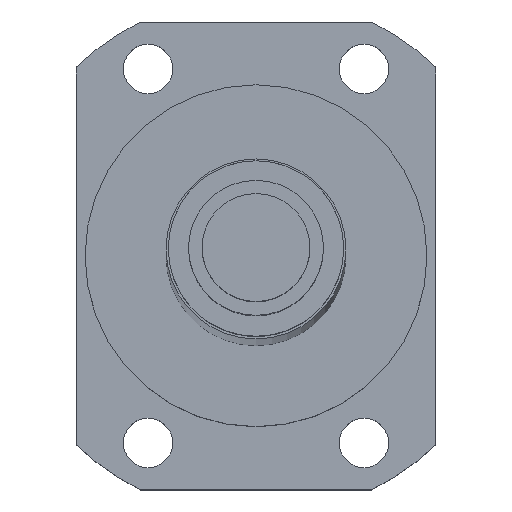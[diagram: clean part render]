
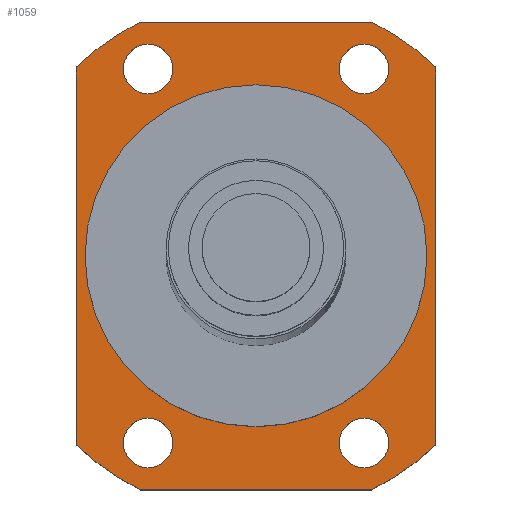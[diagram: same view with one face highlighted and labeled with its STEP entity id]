
A CAD part, top view. The second image highlights one B-rep face of the part: STEP entity #1059.
In plain terms, the highlighted planar face has unit normal (0, 0, 1).
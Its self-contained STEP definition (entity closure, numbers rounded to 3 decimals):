
#58=CARTESIAN_POINT('',(0.,0.,9.5));
#59=DIRECTION('',(0.,0.,-1.));
#60=DIRECTION('',(-1.,0.,0.));
#61=AXIS2_PLACEMENT_3D('',#58,#59,#60);
#175=CARTESIAN_POINT('',(0.,0.,9.5));
#176=DIRECTION('',(0.,0.,1.));
#177=DIRECTION('',(-0.443,0.897,0.));
#178=AXIS2_PLACEMENT_3D('',#175,#176,#177);
#180=DIRECTION('',(-1.,0.,0.));
#181=VECTOR('',#180,25.69);
#182=CARTESIAN_POINT('',(12.845,26.,9.5));
#183=LINE('',#182,#181);
#184=CARTESIAN_POINT('',(0.,0.,9.5));
#185=DIRECTION('',(0.,0.,1.));
#186=DIRECTION('',(0.69,0.724,0.));
#187=AXIS2_PLACEMENT_3D('',#184,#185,#186);
#189=DIRECTION('',(0.,1.,0.));
#190=VECTOR('',#189,42.);
#191=CARTESIAN_POINT('',(20.,-21.,9.5));
#192=LINE('',#191,#190);
#193=CARTESIAN_POINT('',(0.,0.,9.5));
#194=DIRECTION('',(0.,0.,1.));
#195=DIRECTION('',(0.443,-0.897,0.));
#196=AXIS2_PLACEMENT_3D('',#193,#194,#195);
#198=DIRECTION('',(1.,0.,0.));
#199=VECTOR('',#198,25.69);
#200=CARTESIAN_POINT('',(-12.845,-26.,9.5));
#201=LINE('',#200,#199);
#202=CARTESIAN_POINT('',(0.,0.,9.5));
#203=DIRECTION('',(0.,0.,1.));
#204=DIRECTION('',(-0.69,-0.724,0.));
#205=AXIS2_PLACEMENT_3D('',#202,#203,#204);
#207=DIRECTION('',(0.,-1.,0.));
#208=VECTOR('',#207,42.);
#209=CARTESIAN_POINT('',(-20.,21.,9.5));
#210=LINE('',#209,#208);
#211=CARTESIAN_POINT('',(-12.,-20.785,9.5));
#212=DIRECTION('',(0.,0.,1.));
#213=DIRECTION('',(-1.,0.,0.));
#214=AXIS2_PLACEMENT_3D('',#211,#212,#213);
#216=CARTESIAN_POINT('',(-12.,-20.785,9.5));
#217=DIRECTION('',(0.,0.,1.));
#218=DIRECTION('',(1.,0.,0.));
#219=AXIS2_PLACEMENT_3D('',#216,#217,#218);
#221=CARTESIAN_POINT('',(12.,-20.785,9.5));
#222=DIRECTION('',(0.,0.,1.));
#223=DIRECTION('',(-1.,0.,0.));
#224=AXIS2_PLACEMENT_3D('',#221,#222,#223);
#226=CARTESIAN_POINT('',(12.,-20.785,9.5));
#227=DIRECTION('',(0.,0.,1.));
#228=DIRECTION('',(1.,0.,0.));
#229=AXIS2_PLACEMENT_3D('',#226,#227,#228);
#231=CARTESIAN_POINT('',(-12.,20.785,9.5));
#232=DIRECTION('',(0.,0.,1.));
#233=DIRECTION('',(-1.,0.,0.));
#234=AXIS2_PLACEMENT_3D('',#231,#232,#233);
#236=CARTESIAN_POINT('',(-12.,20.785,9.5));
#237=DIRECTION('',(0.,0.,1.));
#238=DIRECTION('',(1.,0.,0.));
#239=AXIS2_PLACEMENT_3D('',#236,#237,#238);
#241=CARTESIAN_POINT('',(12.,20.785,9.5));
#242=DIRECTION('',(0.,0.,1.));
#243=DIRECTION('',(-1.,0.,0.));
#244=AXIS2_PLACEMENT_3D('',#241,#242,#243);
#246=CARTESIAN_POINT('',(12.,20.785,9.5));
#247=DIRECTION('',(0.,0.,1.));
#248=DIRECTION('',(1.,0.,0.));
#249=AXIS2_PLACEMENT_3D('',#246,#247,#248);
#260=CARTESIAN_POINT('',(0.,0.,9.5));
#261=DIRECTION('',(0.,0.,-1.));
#262=DIRECTION('',(1.,0.,0.));
#263=AXIS2_PLACEMENT_3D('',#260,#261,#262);
#697=CARTESIAN_POINT('',(-12.845,26.,9.5));
#698=CARTESIAN_POINT('',(-20.,21.,9.5));
#699=VERTEX_POINT('',#697);
#700=VERTEX_POINT('',#698);
#701=CARTESIAN_POINT('',(12.845,26.,9.5));
#702=VERTEX_POINT('',#701);
#703=CARTESIAN_POINT('',(20.,21.,9.5));
#704=VERTEX_POINT('',#703);
#705=CARTESIAN_POINT('',(20.,-21.,9.5));
#706=VERTEX_POINT('',#705);
#707=CARTESIAN_POINT('',(12.845,-26.,9.5));
#708=VERTEX_POINT('',#707);
#709=CARTESIAN_POINT('',(-12.845,-26.,9.5));
#710=VERTEX_POINT('',#709);
#711=CARTESIAN_POINT('',(-20.,-21.,9.5));
#712=VERTEX_POINT('',#711);
#717=CARTESIAN_POINT('',(-19.,0.,9.5));
#718=CARTESIAN_POINT('',(19.,0.,9.5));
#719=VERTEX_POINT('',#717);
#720=VERTEX_POINT('',#718);
#737=CARTESIAN_POINT('',(-14.75,-20.785,9.5));
#738=CARTESIAN_POINT('',(-9.25,-20.785,9.5));
#739=VERTEX_POINT('',#737);
#740=VERTEX_POINT('',#738);
#741=CARTESIAN_POINT('',(9.25,-20.785,9.5));
#742=CARTESIAN_POINT('',(14.75,-20.785,9.5));
#743=VERTEX_POINT('',#741);
#744=VERTEX_POINT('',#742);
#745=CARTESIAN_POINT('',(-14.75,20.785,9.5));
#746=CARTESIAN_POINT('',(-9.25,20.785,9.5));
#747=VERTEX_POINT('',#745);
#748=VERTEX_POINT('',#746);
#749=CARTESIAN_POINT('',(9.25,20.785,9.5));
#750=CARTESIAN_POINT('',(14.75,20.785,9.5));
#751=VERTEX_POINT('',#749);
#752=VERTEX_POINT('',#750);
#1015=CARTESIAN_POINT('',(0.,0.,9.5));
#1016=DIRECTION('',(0.,0.,-1.));
#1017=DIRECTION('',(-1.,0.,0.));
#1018=AXIS2_PLACEMENT_3D('',#1015,#1016,#1017);
#1019=PLANE('',#1018);
#1020=ORIENTED_EDGE('',*,*,#911,.F.);
#1021=ORIENTED_EDGE('',*,*,#926,.F.);
#1022=ORIENTED_EDGE('',*,*,#940,.F.);
#1023=ORIENTED_EDGE('',*,*,#954,.F.);
#1024=ORIENTED_EDGE('',*,*,#968,.F.);
#1025=ORIENTED_EDGE('',*,*,#982,.F.);
#1026=ORIENTED_EDGE('',*,*,#996,.F.);
#1027=ORIENTED_EDGE('',*,*,#1009,.F.);
#1028=EDGE_LOOP('',(#1020,#1021,#1022,#1023,#1024,#1025,#1026,#1027));
#1029=FACE_OUTER_BOUND('',#1028,.F.);
#1030=ORIENTED_EDGE('',*,*,#839,.F.);
#1032=ORIENTED_EDGE('',*,*,#1031,.F.);
#1033=EDGE_LOOP('',(#1030,#1032));
#1034=FACE_BOUND('',#1033,.F.);
#1036=ORIENTED_EDGE('',*,*,#1035,.T.);
#1038=ORIENTED_EDGE('',*,*,#1037,.T.);
#1039=EDGE_LOOP('',(#1036,#1038));
#1040=FACE_BOUND('',#1039,.F.);
#1042=ORIENTED_EDGE('',*,*,#1041,.T.);
#1044=ORIENTED_EDGE('',*,*,#1043,.T.);
#1045=EDGE_LOOP('',(#1042,#1044));
#1046=FACE_BOUND('',#1045,.F.);
#1048=ORIENTED_EDGE('',*,*,#1047,.T.);
#1050=ORIENTED_EDGE('',*,*,#1049,.T.);
#1051=EDGE_LOOP('',(#1048,#1050));
#1052=FACE_BOUND('',#1051,.F.);
#1054=ORIENTED_EDGE('',*,*,#1053,.T.);
#1056=ORIENTED_EDGE('',*,*,#1055,.T.);
#1057=EDGE_LOOP('',(#1054,#1056));
#1058=FACE_BOUND('',#1057,.F.);
#1059=ADVANCED_FACE('',(#1029,#1034,#1040,#1046,#1052,#1058),#1019,.F.);
#62=CIRCLE('',#61,19.);
#179=CIRCLE('',#178,29.);
#188=CIRCLE('',#187,29.);
#197=CIRCLE('',#196,29.);
#206=CIRCLE('',#205,29.);
#215=CIRCLE('',#214,2.75);
#220=CIRCLE('',#219,2.75);
#225=CIRCLE('',#224,2.75);
#230=CIRCLE('',#229,2.75);
#235=CIRCLE('',#234,2.75);
#240=CIRCLE('',#239,2.75);
#245=CIRCLE('',#244,2.75);
#250=CIRCLE('',#249,2.75);
#264=CIRCLE('',#263,19.);
#839=EDGE_CURVE('',#719,#720,#62,.T.);
#911=EDGE_CURVE('',#699,#700,#179,.T.);
#926=EDGE_CURVE('',#702,#699,#183,.T.);
#940=EDGE_CURVE('',#704,#702,#188,.T.);
#954=EDGE_CURVE('',#706,#704,#192,.T.);
#968=EDGE_CURVE('',#708,#706,#197,.T.);
#982=EDGE_CURVE('',#710,#708,#201,.T.);
#996=EDGE_CURVE('',#712,#710,#206,.T.);
#1009=EDGE_CURVE('',#700,#712,#210,.T.);
#1031=EDGE_CURVE('',#720,#719,#264,.T.);
#1035=EDGE_CURVE('',#739,#740,#215,.T.);
#1037=EDGE_CURVE('',#740,#739,#220,.T.);
#1041=EDGE_CURVE('',#743,#744,#225,.T.);
#1043=EDGE_CURVE('',#744,#743,#230,.T.);
#1047=EDGE_CURVE('',#747,#748,#235,.T.);
#1049=EDGE_CURVE('',#748,#747,#240,.T.);
#1053=EDGE_CURVE('',#751,#752,#245,.T.);
#1055=EDGE_CURVE('',#752,#751,#250,.T.);
